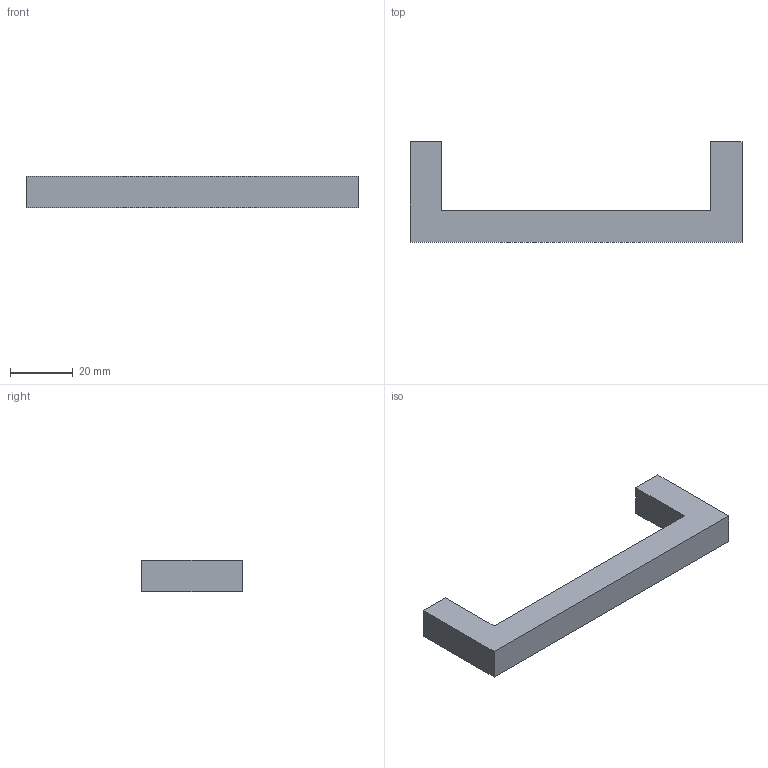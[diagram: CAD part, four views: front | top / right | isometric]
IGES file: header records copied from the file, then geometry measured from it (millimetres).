
Start section: Data from Parasolid IGES Translator 15.0.47, Copyright(c) 2006 Siemens P LM Software. All Rights Reserved.
Global section: file name: 9204164.igs; native system:  By UGS Corp.; preprocessor: XPlus GENERIC/IGES 3.0; author: Noname; organization: Noname; date: 20151204.154502; units: millimetre
Bounding box: 106 x 32 x 10 mm (x, y, z)
Surface area: 6451.3 mm2 (no closed solid volume)
Topology: 0 solids, 0 shells, 14 faces, 60 edges, 58 vertices
Faces by surface type: extrusion 12, revolution 2
